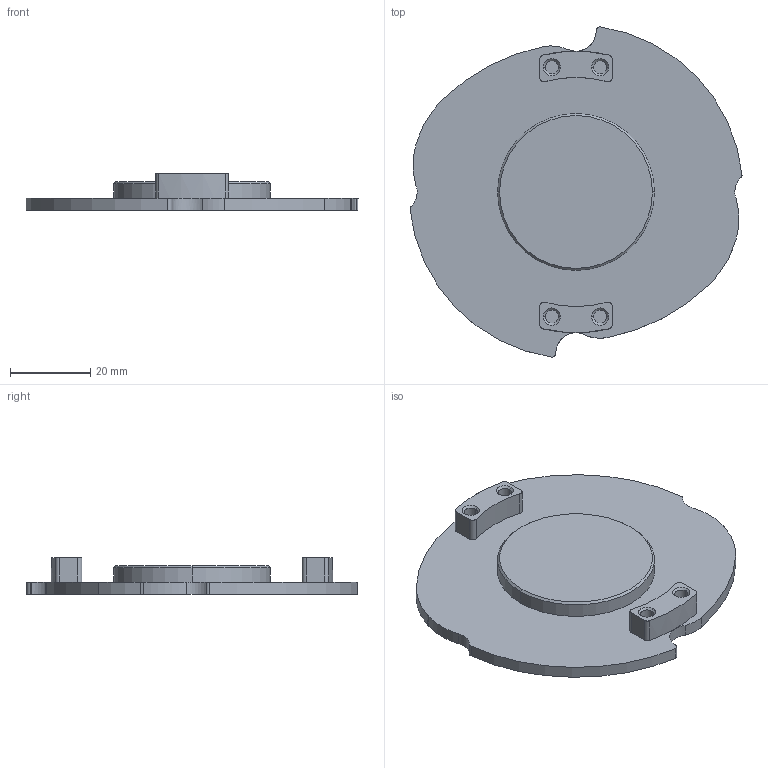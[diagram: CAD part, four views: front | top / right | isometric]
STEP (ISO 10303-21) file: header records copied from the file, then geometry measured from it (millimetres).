
FILE_DESCRIPTION((''),'2;1');
FILE_NAME('K-BOT250704003_5_2_1_1_1_2_1','2025-07-13T10:32:31',('Administrator'),(''),'CREO PARAMETRIC BY PTC INC, 2022073','CREO PARAMETRIC BY PTC INC, 2022073','');
FILE_SCHEMA(('CONFIG_CONTROL_DESIGN'));
Length unit declared in the file: millimetre
Products named in the file (1): K-BOT250704003_5_2_1_1_1_2_1
Bounding box: 82.55 x 82.11 x 9 mm (x, y, z)
Volume: 17582.6 mm3; surface area: 12624.9 mm2
Topology: 1 solids, 1 shells, 70 faces, 195 edges, 133 vertices
Faces by surface type: cylinder 44, plane 16, cone 10
Entity records: 2371 total; most frequent: DIRECTION 457, CARTESIAN_POINT 398, ORIENTED_EDGE 390, EDGE_CURVE 195, AXIS2_PLACEMENT_3D 192, VERTEX_POINT 133, CIRCLE 122, EDGE_LOOP 76
